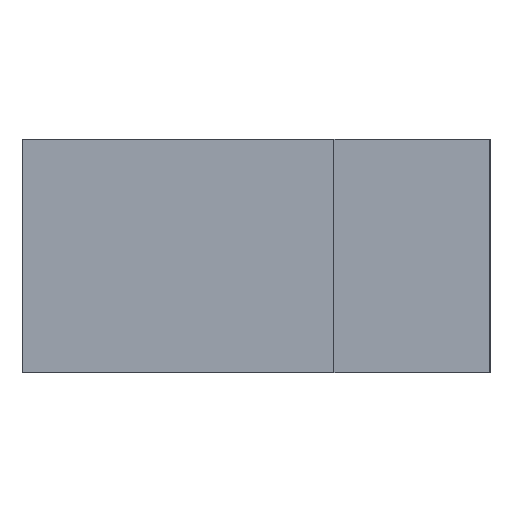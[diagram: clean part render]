
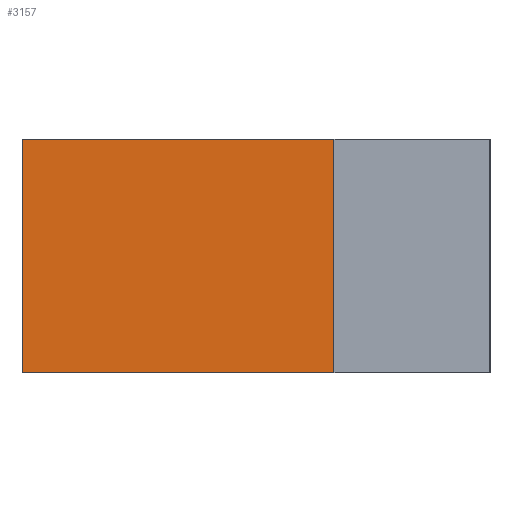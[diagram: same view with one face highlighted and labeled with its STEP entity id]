
A CAD part, left-side view. The second image highlights one B-rep face of the part: STEP entity #3157.
In plain terms, the highlighted planar face has unit normal (-1, 0, 0).
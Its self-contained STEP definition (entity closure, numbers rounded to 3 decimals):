
#406=FACE_OUTER_BOUND('',#594,.T.);
#594=EDGE_LOOP('',(#2854,#2855,#2856,#2857));
#876=LINE('',#5463,#1189);
#893=LINE('',#5541,#1206);
#908=LINE('',#5572,#1221);
#909=LINE('',#5574,#1222);
#1189=VECTOR('',#3751,10.);
#1206=VECTOR('',#3830,10.);
#1221=VECTOR('',#3859,10.);
#1222=VECTOR('',#3862,10.);
#1491=VERTEX_POINT('',#5461);
#1492=VERTEX_POINT('',#5462);
#1522=VERTEX_POINT('',#5539);
#1531=VERTEX_POINT('',#5570);
#1928=EDGE_CURVE('',#1491,#1492,#876,.T.);
#1964=EDGE_CURVE('',#1522,#1492,#893,.T.);
#1980=EDGE_CURVE('',#1531,#1522,#908,.T.);
#1981=EDGE_CURVE('',#1491,#1531,#909,.T.);
#2854=ORIENTED_EDGE('',*,*,#1980,.F.);
#2855=ORIENTED_EDGE('',*,*,#1981,.F.);
#2856=ORIENTED_EDGE('',*,*,#1928,.T.);
#2857=ORIENTED_EDGE('',*,*,#1964,.F.);
#2991=PLANE('',#3304);
#3157=ADVANCED_FACE('',(#406),#2991,.T.);
#3304=AXIS2_PLACEMENT_3D('',#5573,#3860,#3861);
#3751=DIRECTION('',(0.,0.,-1.));
#3830=DIRECTION('',(0.,1.,0.));
#3859=DIRECTION('',(0.,0.,-1.));
#3860=DIRECTION('center_axis',(-1.,0.,0.));
#3861=DIRECTION('ref_axis',(0.,-1.,0.));
#3862=DIRECTION('',(0.,-1.,0.));
#5461=CARTESIAN_POINT('',(18.,60.,15.));
#5462=CARTESIAN_POINT('',(18.,60.,-15.));
#5463=CARTESIAN_POINT('',(18.,60.,0.));
#5539=CARTESIAN_POINT('',(18.,20.,-15.));
#5541=CARTESIAN_POINT('',(18.,20.,-15.));
#5570=CARTESIAN_POINT('',(18.,20.,15.));
#5572=CARTESIAN_POINT('',(18.,20.,0.));
#5573=CARTESIAN_POINT('Origin',(18.,60.,0.));
#5574=CARTESIAN_POINT('',(18.,20.,15.));
